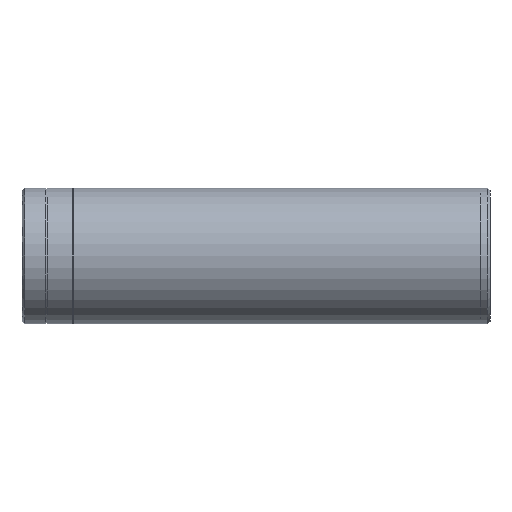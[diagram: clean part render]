
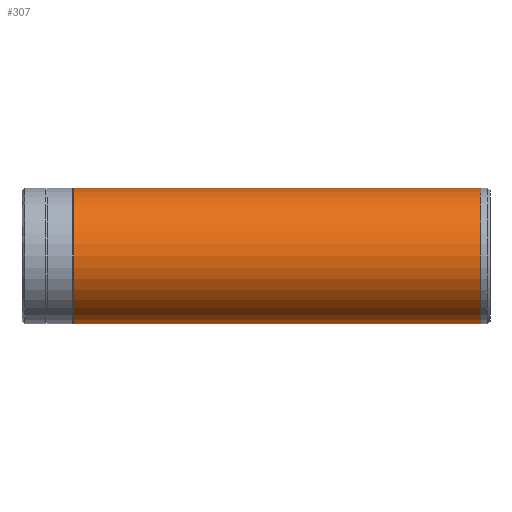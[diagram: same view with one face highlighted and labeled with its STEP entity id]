
A CAD part, front view. The second image highlights one B-rep face of the part: STEP entity #307.
In plain terms, the highlighted cylindrical face has radius 27 mm (diameter 54 mm), a full revolution.
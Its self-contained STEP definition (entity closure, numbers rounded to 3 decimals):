
#21=CYLINDRICAL_SURFACE('',#370,27.);
#54=FACE_OUTER_BOUND('',#79,.T.);
#79=EDGE_LOOP('',(#256,#257,#258,#259));
#97=LINE('',#554,#109);
#109=VECTOR('',#470,27.);
#132=CIRCLE('',#369,27.);
#133=CIRCLE('',#371,27.);
#156=VERTEX_POINT('',#549);
#157=VERTEX_POINT('',#552);
#191=EDGE_CURVE('',#156,#156,#132,.T.);
#192=EDGE_CURVE('',#157,#157,#133,.T.);
#193=EDGE_CURVE('',#157,#156,#97,.T.);
#256=ORIENTED_EDGE('',*,*,#192,.F.);
#257=ORIENTED_EDGE('',*,*,#193,.T.);
#258=ORIENTED_EDGE('',*,*,#191,.T.);
#259=ORIENTED_EDGE('',*,*,#193,.F.);
#307=ADVANCED_FACE('',(#54),#21,.T.);
#369=AXIS2_PLACEMENT_3D('',#550,#464,#465);
#370=AXIS2_PLACEMENT_3D('',#551,#466,#467);
#371=AXIS2_PLACEMENT_3D('',#553,#468,#469);
#464=DIRECTION('center_axis',(1.,0.,0.));
#465=DIRECTION('ref_axis',(0.,0.,-1.));
#466=DIRECTION('center_axis',(1.,0.,0.));
#467=DIRECTION('ref_axis',(0.,1.,0.));
#468=DIRECTION('center_axis',(1.,0.,0.));
#469=DIRECTION('ref_axis',(0.,0.,-1.));
#470=DIRECTION('',(-1.,0.,0.));
#549=CARTESIAN_POINT('',(20.5,-27.,0.));
#550=CARTESIAN_POINT('Origin',(20.5,0.,0.));
#551=CARTESIAN_POINT('Origin',(101.45,0.,0.));
#552=CARTESIAN_POINT('',(182.4,-27.,0.));
#553=CARTESIAN_POINT('Origin',(182.4,0.,0.));
#554=CARTESIAN_POINT('',(101.45,-27.,0.));
